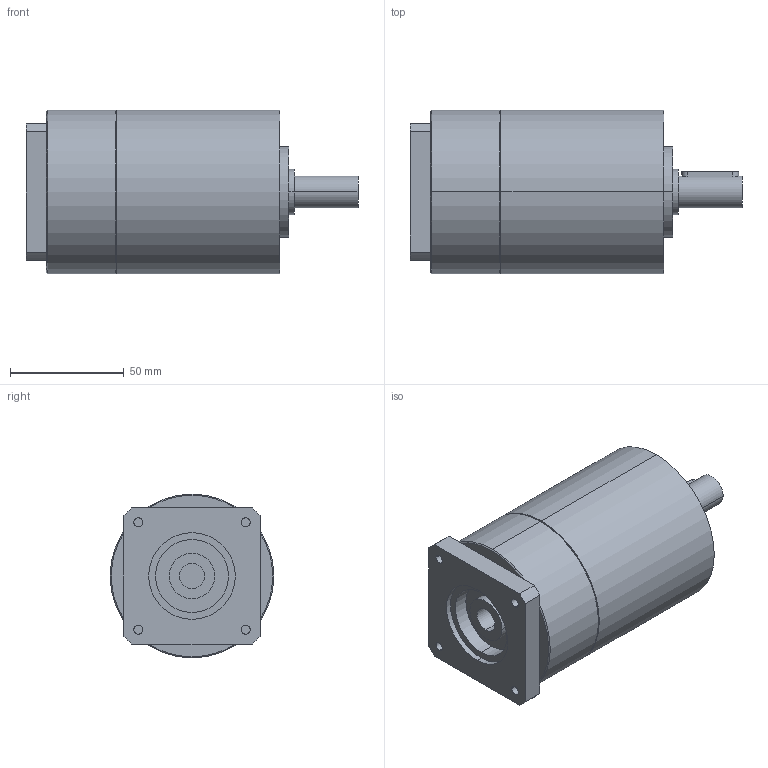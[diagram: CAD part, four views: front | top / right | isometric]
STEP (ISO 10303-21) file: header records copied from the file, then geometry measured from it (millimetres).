
FILE_DESCRIPTION(('CoCreate Modeling STEP Export'),'2;1');
FILE_NAME('GPT75_ig-9-12-16-20-25-28-35-40-50-70-100_14_B14T_11_P28.stp','2014-08-27T13:08:46',(''),(''),'CoCreate Modeling STEP processor for AP214 (Solid Model)','CoCreate Modeling 16.00C 25-Feb-2009 (C) Parametric Technology GmbH','');
FILE_SCHEMA(('AUTOMOTIVE_DESIGN { 1 0 10303 214 1 1 1 1 }'));
Length unit declared in the file: millimetre
Products named in the file (2): GPT75_ig-9-12-16-20-25-28-35-40-50-70-100_14_B14T_11_P28
Assembly tree (1 placements, depth 2):
  GPT75_ig-9-12-16-20-25-28-35-40-50-70-100_14_B14T_11_P28
    GPT75_ig-9-12-16-20-25-28-35-40-50-70-100_14_B14T_11_P28
Bounding box: 146 x 72 x 72 mm (x, y, z)
Volume: 448342.6 mm3; surface area: 39440.1 mm2
Topology: 1 solids, 1 shells, 80 faces, 182 edges, 121 vertices
Faces by surface type: cylinder 42, plane 34, cone 4
Entity records: 2269 total; most frequent: CARTESIAN_POINT 677, ORIENTED_EDGE 364, DIRECTION 268, EDGE_CURVE 182, VERTEX_POINT 121, AXIS2_PLACEMENT_3D 100, EDGE_LOOP 97, FACE_OUTER_BOUND 80
